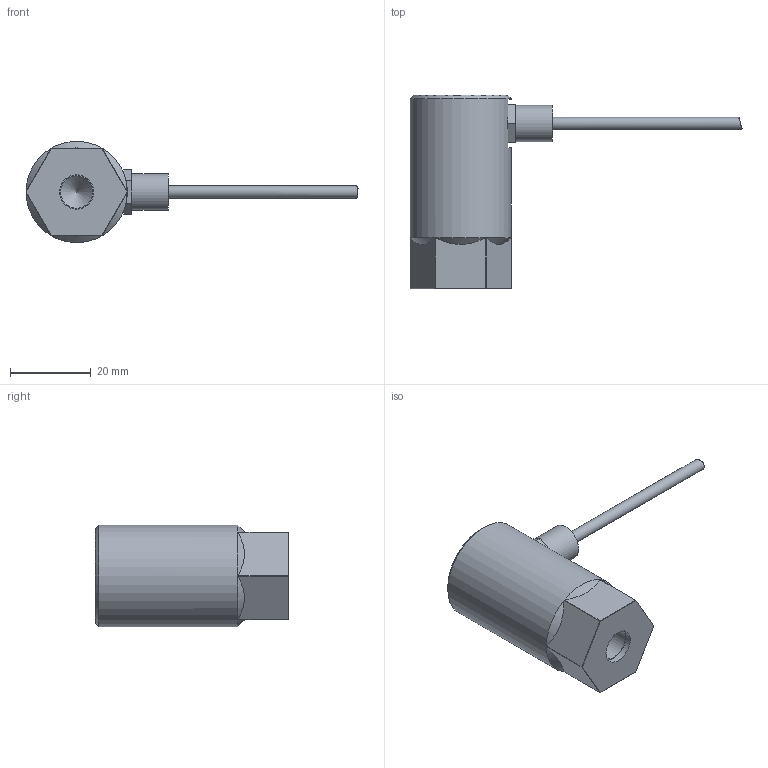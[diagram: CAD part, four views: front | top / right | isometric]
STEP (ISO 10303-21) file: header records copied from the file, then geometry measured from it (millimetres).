
FILE_DESCRIPTION(/* description */ ('Gehäuse_AS-062'),/* implementation_level */ '2;1');
FILE_NAME(/* name */ 'D:\Users\rskowron\Desktop\D-001205.stp',/* time_stamp */ '2018-09-28T07:59:37+02:00',/* author */ ('rskowron'),/* organization */ (''),/* preprocessor_version */ 'ST-DEVELOPER v16.13',/* originating_system */ 'Autodesk Inventor 2018',/* authorisation */ '');
FILE_SCHEMA (('AUTOMOTIVE_DESIGN { 1 0 10303 214 3 1 1 }'));
Length unit declared in the file: millimetre
Products named in the file (1): S-000106
Bounding box: 82.3 x 48 x 25.1 mm (x, y, z)
Volume: 23245.5 mm3; surface area: 5640 mm2
Topology: 1 solids, 1 shells, 55 faces, 143 edges, 94 vertices
Faces by surface type: plane 37, cylinder 9, cone 8, bspline 1
Full cylindrical faces by diameter (mm): 3 x1, 6.5 x1, 8 x1, 8.5 x1, 9 x1, 25.1 x1
Entity records: 1834 total; most frequent: CARTESIAN_POINT 508, ORIENTED_EDGE 258, DIRECTION 257, EDGE_CURVE 129, AXIS2_PLACEMENT_3D 94, VERTEX_POINT 89, LINE 69, VECTOR 69
